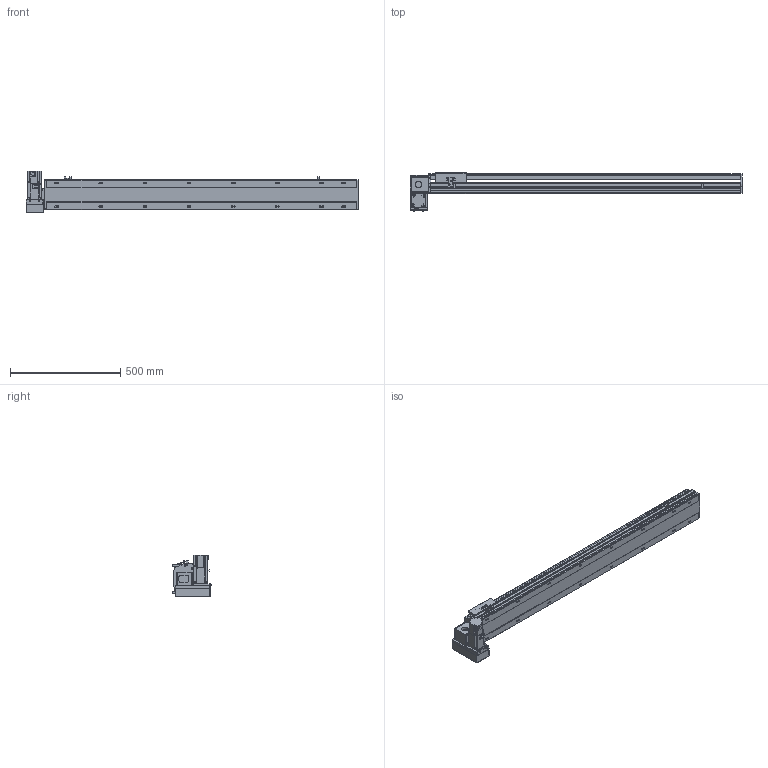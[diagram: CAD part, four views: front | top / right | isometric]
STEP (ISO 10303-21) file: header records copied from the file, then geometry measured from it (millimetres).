
FILE_DESCRIPTION(/* description */ ('STEP AP214'),/* implementation_level */ '2;1');
FILE_NAME(/* name */ 'PBS140S-P40-S1150-LD-T40-C1-N(0)',/* time_stamp */ '2022-06-09T02:24:58+02:00',/* author */ ('License CC BY-ND 4.0'),/* organization */ ('CADENAS'),/* preprocessor_version */ 'ST-DEVELOPER v18.102',/* originating_system */ 'PARTsolutions',/* authorisation */ ' ');
FILE_SCHEMA (('AUTOMOTIVE_DESIGN {1 0 10303 214 3 1 1}'));
Length unit declared in the file: millimetre
Products named in the file (7): PBS140S-P40-S1150-LD-T40-C1-N(0); PBS140S_sensor; PBS140S_plant; PBS140S_sliser; T40-p1; PBS140ST-LD_motors; PBS140S-S1150()_body
Assembly tree (8 placements, depth 2):
  PBS140S-P40-S1150-LD-T40-C1-N(0)
    PBS140S_sensor  x3
    PBS140S_plant
    PBS140S_sliser
    T40-p1
    PBS140ST-LD_motors
    PBS140S-S1150()_body
Bounding box: 1504 x 172.5 x 189.7 mm (x, y, z)
Volume: 7721953.8 mm3; surface area: 1331102.2 mm2
Topology: 8 solids, 8 shells, 1099 faces, 2911 edges, 1905 vertices
Faces by surface type: plane 702, cylinder 345, cone 42, sphere 8, torus 2
Full cylindrical faces by diameter (mm): 3.242 x4, 4 x2, 4.134 x4, 4.4 x8, 4.5 x2, 4.8 x4, 4.917 x24, 5.5 x7, 6 x2, 7 x18, 7.5 x8, 8 x12, 8.5 x4, 10.5 x16, 14 x1, 30 x2, 50 x2
Entity records: 31496 total; most frequent: CARTESIAN_POINT 5816, DIRECTION 5348, ORIENTED_EDGE 5062, EDGE_CURVE 2531, AXIS2_PLACEMENT_3D 1859, VERTEX_POINT 1753, LINE 1630, VECTOR 1630
